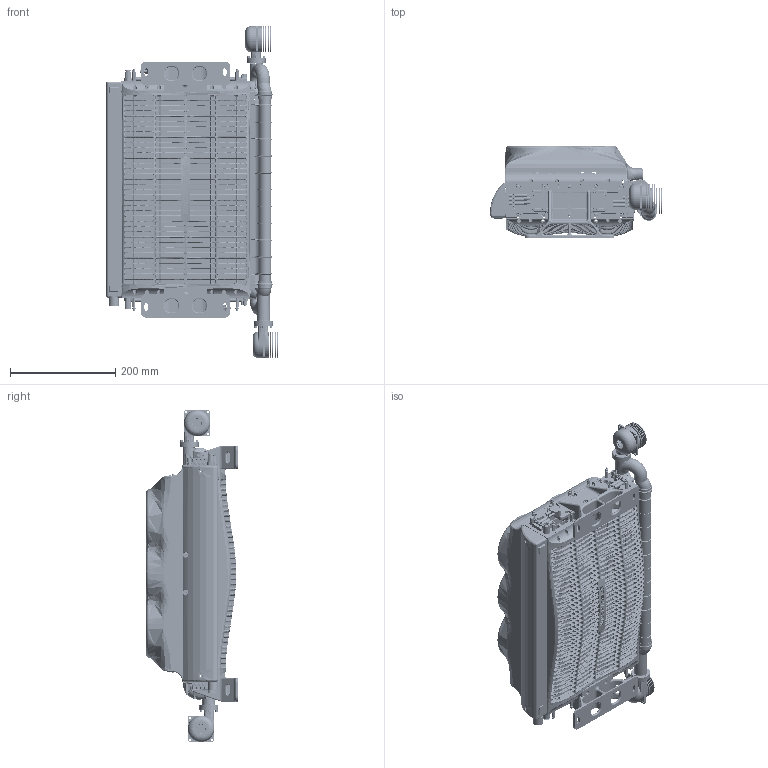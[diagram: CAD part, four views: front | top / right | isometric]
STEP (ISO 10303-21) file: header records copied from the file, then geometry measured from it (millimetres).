
FILE_DESCRIPTION (( 'STEP AP203' ), '1' );
FILE_NAME ('FEAXL_Protium 3000_v4.2.2.STEP', '2025-08-15T04:15:59', ( '' ), ( '' ), 'SwSTEP 2.0', 'SolidWorks 2021', '' );
FILE_SCHEMA (( 'CONFIG_CONTROL_DESIGN' ));
Products named in the file (1): FEAXL_Protium 3000_v4.2.2
Bounding box: 327.13 x 174 x 631.1 mm (x, y, z)
Surface area: 1314570.5 mm2 (no closed solid volume)
Topology: 0 solids, 446 shells, 8079 faces, 30278 edges, 21794 vertices
Faces by surface type: plane 3063, cylinder 2359, bspline 1740, cone 489, torus 418, sphere 10
Entity records: 426485 total; most frequent: CARTESIAN_POINT 193159, ORIENTED_EDGE 46320, DIRECTION 42995, EDGE_CURVE 30175, VERTEX_POINT 21794, AXIS2_PLACEMENT_3D 14929, VECTOR 13137, LINE 13137
